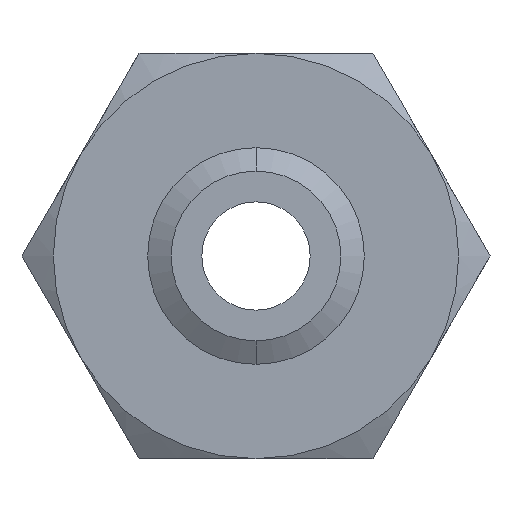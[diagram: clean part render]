
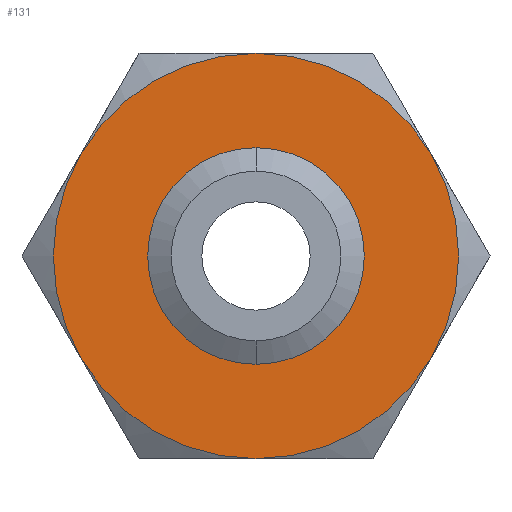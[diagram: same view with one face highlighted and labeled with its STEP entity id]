
A CAD part, front view. The second image highlights one B-rep face of the part: STEP entity #131.
In plain terms, the highlighted planar face has unit normal (0, -1, 0).
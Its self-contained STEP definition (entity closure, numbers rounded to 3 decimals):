
#111 = ORIENTED_EDGE ( 'NONE', *, *, #183, .F. ) ;
#112 = VERTEX_POINT ( 'NONE', #525 ) ;
#113 = ORIENTED_EDGE ( 'NONE', *, *, #114, .F. ) ;
#114 = EDGE_CURVE ( 'NONE', #191, #112, #524, .T. ) ;
#115 = EDGE_LOOP ( 'NONE', ( #177, #178 ) ) ;
#117 = ORIENTED_EDGE ( 'NONE', *, *, #126, .F. ) ;
#123 = EDGE_LOOP ( 'NONE', ( #117, #190, #184, #111, #113, #186 ) ) ;
#124 = VERTEX_POINT ( 'NONE', #513 ) ;
#125 = VERTEX_POINT ( 'NONE', #512 ) ;
#126 = EDGE_CURVE ( 'NONE', #124, #125, #511, .T. ) ;
#131 = ADVANCED_FACE ( 'NONE', ( #501, #495 ), #494, .F. ) ;
#172 = EDGE_CURVE ( 'NONE', #2006, #2008, #590, .T. ) ;
#177 = ORIENTED_EDGE ( 'NONE', *, *, #2032, .F. ) ;
#178 = ORIENTED_EDGE ( 'NONE', *, *, #172, .F. ) ;
#183 = EDGE_CURVE ( 'NONE', #112, #192, #639, .T. ) ;
#184 = ORIENTED_EDGE ( 'NONE', *, *, #185, .F. ) ;
#185 = EDGE_CURVE ( 'NONE', #192, #189, #634, .T. ) ;
#186 = ORIENTED_EDGE ( 'NONE', *, *, #187, .F. ) ;
#187 = EDGE_CURVE ( 'NONE', #125, #191, #629, .T. ) ;
#188 = EDGE_CURVE ( 'NONE', #189, #124, #623, .T. ) ;
#189 = VERTEX_POINT ( 'NONE', #624 ) ;
#190 = ORIENTED_EDGE ( 'NONE', *, *, #188, .F. ) ;
#191 = VERTEX_POINT ( 'NONE', #680 ) ;
#192 = VERTEX_POINT ( 'NONE', #679 ) ;
#493 = AXIS2_PLACEMENT_3D ( 'NONE', #557, #556, #555 ) ;
#494 = PLANE ( 'NONE',  #493 ) ;
#495 = FACE_BOUND ( 'NONE', #115, .T. ) ;
#501 = FACE_OUTER_BOUND ( 'NONE', #123, .T. ) ;
#507 = DIRECTION ( 'NONE',  ( 0., 0., 1. ) ) ;
#508 = DIRECTION ( 'NONE',  ( 0., 1., 0. ) ) ;
#509 = CARTESIAN_POINT ( 'NONE',  ( 0., 0., 0. ) ) ;
#510 = AXIS2_PLACEMENT_3D ( 'NONE', #509, #508, #507 ) ;
#511 = CIRCLE ( 'NONE', #510, 47.5 ) ;
#512 = CARTESIAN_POINT ( 'NONE',  ( 41.136, 0., 23.75 ) ) ;
#513 = CARTESIAN_POINT ( 'NONE',  ( 0., 0., 47.5 ) ) ;
#520 = DIRECTION ( 'NONE',  ( 0., 0., 1. ) ) ;
#521 = DIRECTION ( 'NONE',  ( 0., 1., 0. ) ) ;
#522 = CARTESIAN_POINT ( 'NONE',  ( 0., 0., 0. ) ) ;
#523 = AXIS2_PLACEMENT_3D ( 'NONE', #522, #521, #520 ) ;
#524 = CIRCLE ( 'NONE', #523, 47.5 ) ;
#525 = CARTESIAN_POINT ( 'NONE',  ( 0., 0., -47.5 ) ) ;
#555 = DIRECTION ( 'NONE',  ( 0., 0., 1. ) ) ;
#556 = DIRECTION ( 'NONE',  ( 0., 1., 0. ) ) ;
#557 = CARTESIAN_POINT ( 'NONE',  ( 27.424, 0., -47.5 ) ) ;
#590 = CIRCLE ( 'NONE', #651, 19.901 ) ;
#619 = DIRECTION ( 'NONE',  ( 0., 0., 1. ) ) ;
#620 = DIRECTION ( 'NONE',  ( 0., 1., 0. ) ) ;
#621 = CARTESIAN_POINT ( 'NONE',  ( 0., 0., 0. ) ) ;
#622 = AXIS2_PLACEMENT_3D ( 'NONE', #621, #620, #619 ) ;
#623 = CIRCLE ( 'NONE', #622, 47.5 ) ;
#624 = CARTESIAN_POINT ( 'NONE',  ( -41.136, 0., 23.75 ) ) ;
#625 = DIRECTION ( 'NONE',  ( 0., 0., 1. ) ) ;
#626 = DIRECTION ( 'NONE',  ( 0., 1., 0. ) ) ;
#627 = CARTESIAN_POINT ( 'NONE',  ( 0., 0., 0. ) ) ;
#628 = AXIS2_PLACEMENT_3D ( 'NONE', #627, #626, #625 ) ;
#629 = CIRCLE ( 'NONE', #628, 47.5 ) ;
#630 = DIRECTION ( 'NONE',  ( 0., 0., 1. ) ) ;
#631 = DIRECTION ( 'NONE',  ( 0., 1., 0. ) ) ;
#632 = CARTESIAN_POINT ( 'NONE',  ( 0., 0., 0. ) ) ;
#633 = AXIS2_PLACEMENT_3D ( 'NONE', #632, #631, #630 ) ;
#634 = CIRCLE ( 'NONE', #633, 47.5 ) ;
#635 = DIRECTION ( 'NONE',  ( 0., 0., 1. ) ) ;
#636 = DIRECTION ( 'NONE',  ( 0., 1., 0. ) ) ;
#637 = CARTESIAN_POINT ( 'NONE',  ( 0., 0., 0. ) ) ;
#638 = AXIS2_PLACEMENT_3D ( 'NONE', #637, #636, #635 ) ;
#639 = CIRCLE ( 'NONE', #638, 47.5 ) ;
#648 = DIRECTION ( 'NONE',  ( 0., 0., -1. ) ) ;
#649 = DIRECTION ( 'NONE',  ( 0., -1., 0. ) ) ;
#650 = CARTESIAN_POINT ( 'NONE',  ( 0., 0., 0. ) ) ;
#651 = AXIS2_PLACEMENT_3D ( 'NONE', #650, #649, #648 ) ;
#679 = CARTESIAN_POINT ( 'NONE',  ( -41.136, 0., -23.75 ) ) ;
#680 = CARTESIAN_POINT ( 'NONE',  ( 41.136, 0., -23.75 ) ) ;
#1473 = CARTESIAN_POINT ( 'NONE',  ( 0., 0., 19.901 ) ) ;
#1530 = CARTESIAN_POINT ( 'NONE',  ( 0., 0., -19.901 ) ) ;
#1545 = DIRECTION ( 'NONE',  ( 0., 0., -1. ) ) ;
#1546 = DIRECTION ( 'NONE',  ( 0., -1., 0. ) ) ;
#1547 = CARTESIAN_POINT ( 'NONE',  ( 0., 0., 0. ) ) ;
#1548 = AXIS2_PLACEMENT_3D ( 'NONE', #1547, #1546, #1545 ) ;
#1554 = CIRCLE ( 'NONE', #1548, 19.901 ) ;
#2006 = VERTEX_POINT ( 'NONE', #1473 ) ;
#2008 = VERTEX_POINT ( 'NONE', #1530 ) ;
#2032 = EDGE_CURVE ( 'NONE', #2008, #2006, #1554, .T. ) ;
